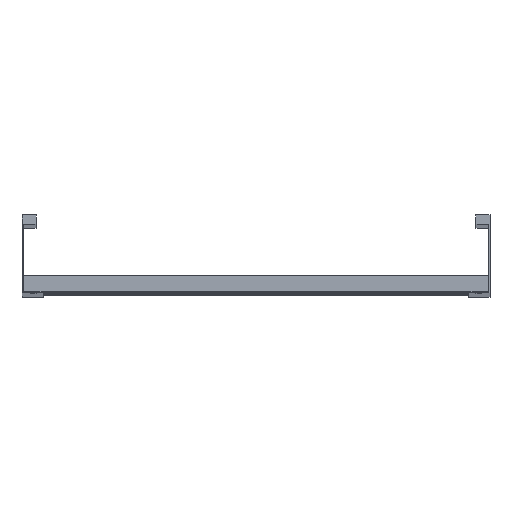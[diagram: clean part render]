
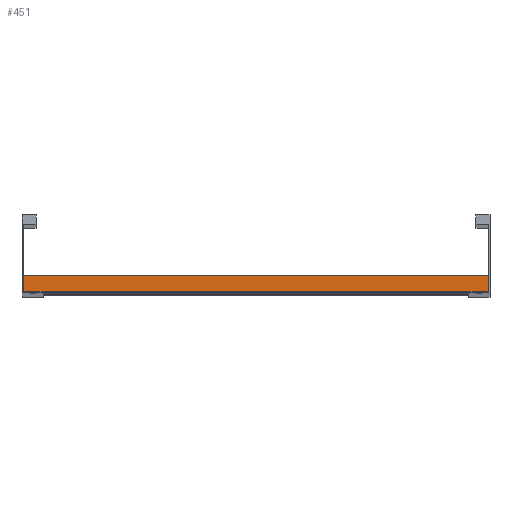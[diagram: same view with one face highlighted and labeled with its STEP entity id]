
A CAD part, top view. The second image highlights one B-rep face of the part: STEP entity #451.
In plain terms, the highlighted planar face has unit normal (0, 0, 1).
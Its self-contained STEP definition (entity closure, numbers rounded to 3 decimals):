
#15 = EDGE_CURVE ( 'NONE', #47, #127, #607, .T. ) ;
#40 = AXIS2_PLACEMENT_3D ( 'NONE', #178, #1533, #1684 ) ;
#47 = VERTEX_POINT ( 'NONE', #1234 ) ;
#61 = CARTESIAN_POINT ( 'NONE',  ( -298., 20., 20.25 ) ) ;
#127 = VERTEX_POINT ( 'NONE', #968 ) ;
#178 = CARTESIAN_POINT ( 'NONE',  ( 298., 20., 20.25 ) ) ;
#187 = CARTESIAN_POINT ( 'NONE',  ( 298., 20., 20.25 ) ) ;
#278 = ORIENTED_EDGE ( 'NONE', *, *, #592, .T. ) ;
#327 = DIRECTION ( 'NONE',  ( 0., -1., 0. ) ) ;
#339 = ORIENTED_EDGE ( 'NONE', *, *, #15, .F. ) ;
#451 = ADVANCED_FACE ( 'NONE', ( #1123 ), #587, .F. ) ;
#482 = LINE ( 'NONE', #61, #1263 ) ;
#573 = VERTEX_POINT ( 'NONE', #1396 ) ;
#587 = PLANE ( 'NONE',  #40 ) ;
#592 = EDGE_CURVE ( 'NONE', #573, #752, #482, .T. ) ;
#607 = LINE ( 'NONE', #187, #687 ) ;
#644 = EDGE_CURVE ( 'NONE', #127, #752, #1037, .T. ) ;
#687 = VECTOR ( 'NONE', #709, 1000. ) ;
#709 = DIRECTION ( 'NONE',  ( 0., -1., 0. ) ) ;
#752 = VERTEX_POINT ( 'NONE', #1177 ) ;
#772 = VECTOR ( 'NONE', #887, 1000. ) ;
#873 = LINE ( 'NONE', #1392, #1484 ) ;
#887 = DIRECTION ( 'NONE',  ( -1., 0., 0. ) ) ;
#968 = CARTESIAN_POINT ( 'NONE',  ( 298., 0., 20.25 ) ) ;
#1037 = LINE ( 'NONE', #1273, #772 ) ;
#1123 = FACE_OUTER_BOUND ( 'NONE', #1212, .T. ) ;
#1177 = CARTESIAN_POINT ( 'NONE',  ( -298., 0., 20.25 ) ) ;
#1198 = EDGE_CURVE ( 'NONE', #47, #573, #873, .T. ) ;
#1212 = EDGE_LOOP ( 'NONE', ( #278, #1535, #339, #1546 ) ) ;
#1226 = DIRECTION ( 'NONE',  ( -1., 0., 0. ) ) ;
#1234 = CARTESIAN_POINT ( 'NONE',  ( 298., 20., 20.25 ) ) ;
#1263 = VECTOR ( 'NONE', #327, 1000. ) ;
#1273 = CARTESIAN_POINT ( 'NONE',  ( 298., 0., 20.25 ) ) ;
#1392 = CARTESIAN_POINT ( 'NONE',  ( 298., 20., 20.25 ) ) ;
#1396 = CARTESIAN_POINT ( 'NONE',  ( -298., 20., 20.25 ) ) ;
#1484 = VECTOR ( 'NONE', #1226, 1000. ) ;
#1533 = DIRECTION ( 'NONE',  ( 0., 0., -1. ) ) ;
#1535 = ORIENTED_EDGE ( 'NONE', *, *, #644, .F. ) ;
#1546 = ORIENTED_EDGE ( 'NONE', *, *, #1198, .T. ) ;
#1684 = DIRECTION ( 'NONE',  ( 0., 1., 0. ) ) ;
